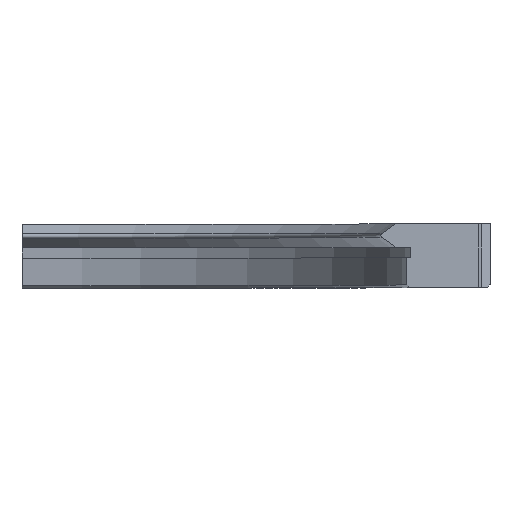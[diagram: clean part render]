
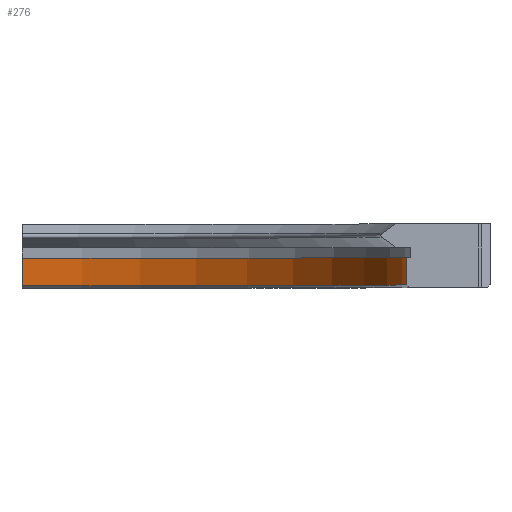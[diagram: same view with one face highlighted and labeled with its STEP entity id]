
A CAD part, top view. The second image highlights one B-rep face of the part: STEP entity #276.
In plain terms, the highlighted cylindrical face has radius 75 mm (diameter 150 mm), a partial arc.
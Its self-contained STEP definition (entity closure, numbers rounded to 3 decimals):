
#276 = ADVANCED_FACE( '', ( #778 ), #779, .F. );
#778 = FACE_OUTER_BOUND( '', #1366, .T. );
#779 = CYLINDRICAL_SURFACE( '', #1367, 75. );
#1366 = EDGE_LOOP( '', ( #3483, #3484, #3485, #3486 ) );
#1367 = AXIS2_PLACEMENT_3D( '', #3487, #3488, #3489 );
#3483 = ORIENTED_EDGE( '', *, *, #4892, .T. );
#3484 = ORIENTED_EDGE( '', *, *, #4594, .T. );
#3485 = ORIENTED_EDGE( '', *, *, #4893, .F. );
#3486 = ORIENTED_EDGE( '', *, *, #4109, .T. );
#3487 = CARTESIAN_POINT( '', ( 0., 0., 0. ) );
#3488 = DIRECTION( '', ( 0., 1., 0. ) );
#3489 = DIRECTION( '', ( 0., 0., -1. ) );
#4109 = EDGE_CURVE( '', #4968, #4966, #4969, .T. );
#4594 = EDGE_CURVE( '', #5923, #5921, #5924, .F. );
#4892 = EDGE_CURVE( '', #4966, #5923, #6302, .T. );
#4893 = EDGE_CURVE( '', #4968, #5921, #6303, .T. );
#4966 = VERTEX_POINT( '', #6394 );
#4968 = VERTEX_POINT( '', #6399 );
#4969 = LINE( '', #6400, #6401 );
#5921 = VERTEX_POINT( '', #7763 );
#5923 = VERTEX_POINT( '', #7766 );
#5924 = LINE( '', #7767, #7768 );
#6302 = CIRCLE( '', #8609, 75. );
#6303 = CIRCLE( '', #8610, 75. );
#6394 = CARTESIAN_POINT( '', ( 1., 0.5, -74.993 ) );
#6399 = CARTESIAN_POINT( '', ( 1., 5.75, -74.993 ) );
#6400 = CARTESIAN_POINT( '', ( 1., 0., -74.993 ) );
#6401 = VECTOR( '', #8668, 1000. );
#7763 = CARTESIAN_POINT( '', ( 74.993, 5.75, -1. ) );
#7766 = CARTESIAN_POINT( '', ( 74.993, 0.5, -1. ) );
#7767 = CARTESIAN_POINT( '', ( 74.993, 0., -1. ) );
#7768 = VECTOR( '', #9356, 1000. );
#8609 = AXIS2_PLACEMENT_3D( '', #9571, #9572, #9573 );
#8610 = AXIS2_PLACEMENT_3D( '', #9574, #9575, #9576 );
#8668 = DIRECTION( '', ( 0., -1., 0. ) );
#9356 = DIRECTION( '', ( 0., -1., 0. ) );
#9571 = CARTESIAN_POINT( '', ( 0., 0.5, 0. ) );
#9572 = DIRECTION( '', ( 0., -1., 0. ) );
#9573 = DIRECTION( '', ( 0., 0., -1. ) );
#9574 = CARTESIAN_POINT( '', ( 0., 5.75, 0. ) );
#9575 = DIRECTION( '', ( 0., -1., 0. ) );
#9576 = DIRECTION( '', ( 0., 0., -1. ) );
